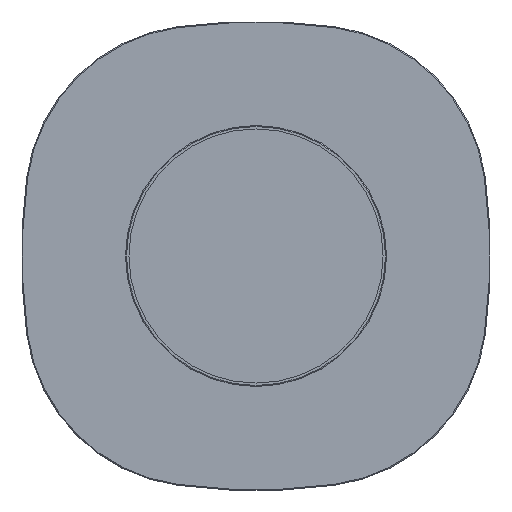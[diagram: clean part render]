
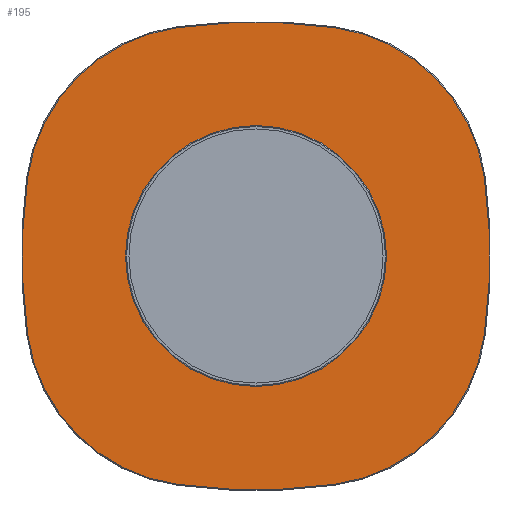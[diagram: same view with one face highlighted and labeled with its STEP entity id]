
A CAD part, front view. The second image highlights one B-rep face of the part: STEP entity #195.
In plain terms, the highlighted planar face has unit normal (0, -1, 0).
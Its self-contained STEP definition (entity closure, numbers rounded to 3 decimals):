
#105=CARTESIAN_POINT('',(0.,557.451,0.));
#106=DIRECTION('',(0.0,1.0,0.0));
#107=DIRECTION('',(0.0,0.0,-1.0));
#108=AXIS2_PLACEMENT_3D('',#105,#106,#107);
#109=PLANE('',#108);
#110=CARTESIAN_POINT('',(233.625,557.451,80.135));
#111=VERTEX_POINT('',#110);
#112=CARTESIAN_POINT('',(233.625,557.451,-80.135));
#113=VERTEX_POINT('',#112);
#114=CARTESIAN_POINT('',(-361.,557.451,0.));
#115=DIRECTION('',(0.,1.0,0.));
#116=DIRECTION('',(0.991,0.,0.134));
#117=AXIS2_PLACEMENT_3D('',#114,#115,#116);
#118=CIRCLE('',#117,600.0);
#119=EDGE_CURVE('',#111,#113,#118,.T.);
#120=ORIENTED_EDGE('',*,*,#119,.F.);
#121=CARTESIAN_POINT('',(80.135,557.451,233.625));
#122=VERTEX_POINT('',#121);
#123=CARTESIAN_POINT('',(56.228,557.451,56.228));
#124=DIRECTION('',(0.,1.0,0.));
#125=DIRECTION('',(0.134,0.,0.991));
#126=AXIS2_PLACEMENT_3D('',#123,#124,#125);
#127=CIRCLE('',#126,179.);
#128=EDGE_CURVE('',#122,#111,#127,.T.);
#129=ORIENTED_EDGE('',*,*,#128,.F.);
#130=CARTESIAN_POINT('',(-80.135,557.451,233.625));
#131=VERTEX_POINT('',#130);
#132=CARTESIAN_POINT('',(0.,557.451,-361.0));
#133=DIRECTION('',(0.,1.0,0.));
#134=DIRECTION('',(-0.134,0.,0.991));
#135=AXIS2_PLACEMENT_3D('',#132,#133,#134);
#136=CIRCLE('',#135,600.0);
#137=EDGE_CURVE('',#131,#122,#136,.T.);
#138=ORIENTED_EDGE('',*,*,#137,.F.);
#139=CARTESIAN_POINT('',(-233.625,557.451,80.135));
#140=VERTEX_POINT('',#139);
#141=CARTESIAN_POINT('',(-56.228,557.451,56.228));
#142=DIRECTION('',(0.,1.0,0.));
#143=DIRECTION('',(-0.991,0.,0.134));
#144=AXIS2_PLACEMENT_3D('',#141,#142,#143);
#145=CIRCLE('',#144,179.);
#146=EDGE_CURVE('',#140,#131,#145,.T.);
#147=ORIENTED_EDGE('',*,*,#146,.F.);
#148=CARTESIAN_POINT('',(-233.625,557.451,-80.135));
#149=VERTEX_POINT('',#148);
#150=CARTESIAN_POINT('',(361.,557.451,0.));
#151=DIRECTION('',(0.,1.0,0.));
#152=DIRECTION('',(-0.991,0.,-0.134));
#153=AXIS2_PLACEMENT_3D('',#150,#151,#152);
#154=CIRCLE('',#153,600.0);
#155=EDGE_CURVE('',#149,#140,#154,.T.);
#156=ORIENTED_EDGE('',*,*,#155,.F.);
#157=CARTESIAN_POINT('',(-80.135,557.451,-233.625));
#158=VERTEX_POINT('',#157);
#159=CARTESIAN_POINT('',(-56.228,557.451,-56.228));
#160=DIRECTION('',(0.,1.0,0.));
#161=DIRECTION('',(-0.134,0.,-0.991));
#162=AXIS2_PLACEMENT_3D('',#159,#160,#161);
#163=CIRCLE('',#162,179.);
#164=EDGE_CURVE('',#158,#149,#163,.T.);
#165=ORIENTED_EDGE('',*,*,#164,.F.);
#166=CARTESIAN_POINT('',(80.135,557.451,-233.625));
#167=VERTEX_POINT('',#166);
#168=CARTESIAN_POINT('',(0.,557.451,361.0));
#169=DIRECTION('',(0.,1.0,0.));
#170=DIRECTION('',(0.134,0.,-0.991));
#171=AXIS2_PLACEMENT_3D('',#168,#169,#170);
#172=CIRCLE('',#171,600.0);
#173=EDGE_CURVE('',#167,#158,#172,.T.);
#174=ORIENTED_EDGE('',*,*,#173,.F.);
#175=CARTESIAN_POINT('',(56.228,557.451,-56.228));
#176=DIRECTION('',(0.,1.0,0.));
#177=DIRECTION('',(0.991,0.,-0.134));
#178=AXIS2_PLACEMENT_3D('',#175,#176,#177);
#179=CIRCLE('',#178,179.);
#180=EDGE_CURVE('',#113,#167,#179,.T.);
#181=ORIENTED_EDGE('',*,*,#180,.F.);
#182=EDGE_LOOP('',(#120,#129,#138,#147,#156,#165,#174,#181));
#183=FACE_OUTER_BOUND('',#182,.T.);
#184=CARTESIAN_POINT('',(0.,557.451,-19.75));
#185=VERTEX_POINT('',#184);
#186=CARTESIAN_POINT('',(0.,557.451,0.));
#187=DIRECTION('',(0.0,-1.0,0.0));
#188=DIRECTION('',(0.0,0.0,1.0));
#189=AXIS2_PLACEMENT_3D('',#186,#187,#188);
#190=CIRCLE('',#189,19.75);
#191=EDGE_CURVE('',#185,#185,#190,.T.);
#192=ORIENTED_EDGE('',*,*,#191,.F.);
#193=EDGE_LOOP('',(#192));
#194=FACE_BOUND('',#193,.T.);
#195=ADVANCED_FACE('',(#183,#194),#109,.F.);
